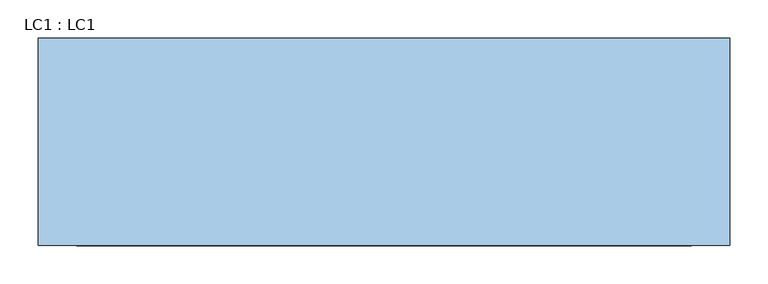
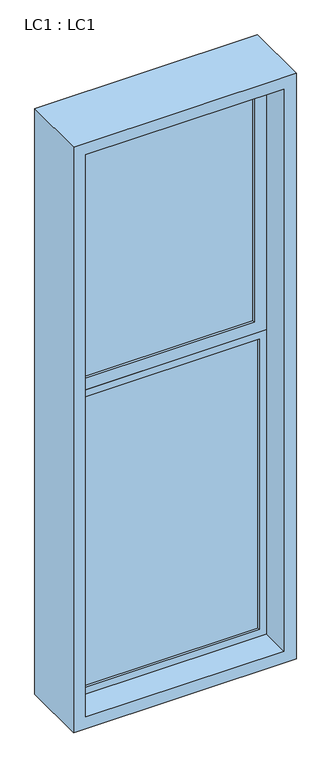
"""IFC4 building model written with IfcOpenShell, lengths in millimetres: window geometry, LC1 : LC1."""

from ifc_helpers import new_model, si_unit, frame, origin, place, context, project, spatial, polyline, outline, extrude, source, transform, mapped, element, save


def lc1_lc1_5b152119(model_context):
    return source(origin(), model_context, "Body", "SweptSolid", [
        extrude(outline(polyline([(3400.0, 450.0), (3400.0, -450.0), (900.0, -450.0), (900.0, 450.0), (3400.0, 450.0)]), holes=[polyline([(3350.0, 400.0), (950.0, 400.0), (950.0, -400.0), (3350.0, -400.0), (3350.0, 400.0)])]), frame((0.0, -135.0, 0.0), z_axis=(0.0, 1.0, 0.0), x_axis=(0.0, 0.0, 1.0)), (0.0, 0.0, 1.0), 270.0),
        extrude(outline(polyline([(350.0, 5.2868922), (350.0, -4.7131078), (-350.0, -4.7131078), (-350.0, 5.2868922), (350.0, 5.2868922)])), frame((0.0, 0.0, 2300.0), z_axis=(0.0, 0.0, 1.0), x_axis=(1.0, 0.0, 0.0)), (0.0, 0.0, 1.0), 1000.0),
        extrude(outline(polyline([(370.0, 5.2868922), (370.0, -4.7131078), (-370.0, -4.7131078), (-370.0, 5.2868922), (370.0, 5.2868922)])), frame((0.0, 0.0, 980.0), z_axis=(0.0, 0.0, 1.0), x_axis=(1.0, 0.0, 0.0)), (0.0, 0.0, 1.0), 1240.0),
        extrude(outline(polyline([(3350.0, 400.0), (3350.0, -400.0), (2250.0, -400.0), (2250.0, 400.0), (3350.0, 400.0)]), holes=[polyline([(3300.0, 350.0), (2300.0, 350.0), (2300.0, -350.0), (3300.0, -350.0), (3300.0, 350.0)])]), frame((0.0, -15.0, 0.0), z_axis=(0.0, 1.0, 0.0), x_axis=(0.0, 0.0, 1.0)), (0.0, 0.0, 1.0), 30.0),
        extrude(outline(polyline([(2250.0, 400.0), (2250.0, -400.0), (950.0, -400.0), (950.0, 400.0), (2250.0, 400.0)]), holes=[polyline([(2220.0, 370.0), (980.0, 370.0), (980.0, -370.0), (2220.0, -370.0), (2220.0, 370.0)])]), frame((0.0, -15.0, 0.0), z_axis=(0.0, 1.0, 0.0), x_axis=(0.0, 0.0, 1.0)), (0.0, 0.0, 1.0), 30.0),
    ])


if __name__ == "__main__":
    model = new_model("IFC4")
    model_context = context("Model", 3, world=origin())
    ifc_project = project(units=[si_unit("LENGTHUNIT", "METRE", prefix="MILLI")], contexts=[model_context])
    site = spatial("IfcSite", under=ifc_project)
    building = spatial("IfcBuilding", under=site)
    placement = place(None, origin())
    lc1_lc1_shape = lc1_lc1_5b152119(model_context)
    element("IfcWindow", 1, ObjectType="LC1 : LC1", at=placement, inside=building, context=model_context, shape_type="MappedRepresentation", body=[
        mapped(lc1_lc1_shape, transform((0.0, 0.0, 0.0), x_axis=(1.0, 0.0, 0.0), y_axis=(0.0, 1.0, 0.0), z_axis=(0.0, 0.0, 1.0))),
    ])
    save(model, "model.ifc")
